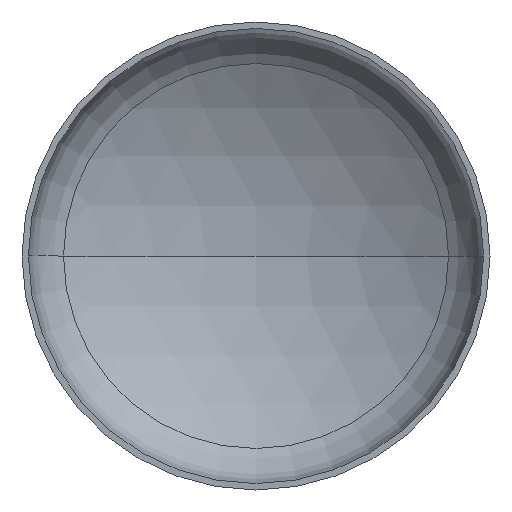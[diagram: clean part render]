
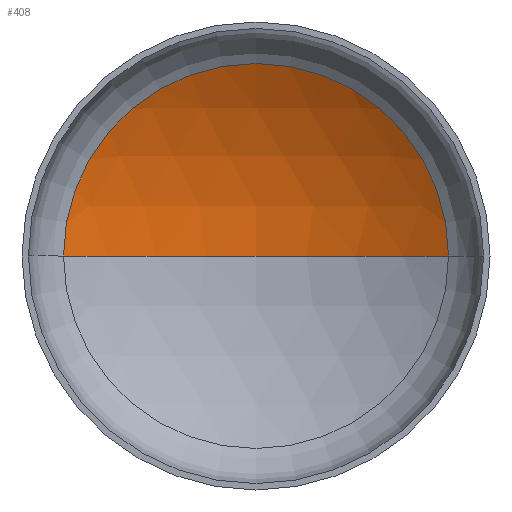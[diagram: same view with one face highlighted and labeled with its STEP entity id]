
A CAD part, front view. The second image highlights one B-rep face of the part: STEP entity #408.
In plain terms, the highlighted spherical face has radius 5600 mm.
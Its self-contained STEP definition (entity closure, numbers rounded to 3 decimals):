
#6 = ORIENTED_EDGE ( 'NONE', *, *, #131, .T. ) ;
#10 = VERTEX_POINT ( 'NONE', #268 ) ;
#11 = DIRECTION ( 'NONE',  ( 1., 0., 0. ) ) ;
#16 = VERTEX_POINT ( 'NONE', #65 ) ;
#28 = DIRECTION ( 'NONE',  ( 0., 0., 1. ) ) ;
#46 = ORIENTED_EDGE ( 'NONE', *, *, #134, .F. ) ;
#62 = VERTEX_POINT ( 'NONE', #234 ) ;
#65 = CARTESIAN_POINT ( 'NONE',  ( -2879.292, 1026.31, 0. ) ) ;
#69 = EDGE_LOOP ( 'NONE', ( #46, #6, #115 ) ) ;
#84 = AXIS2_PLACEMENT_3D ( 'NONE', #385, #28, #11 ) ;
#94 = AXIS2_PLACEMENT_3D ( 'NONE', #193, #194, #173 ) ;
#95 = AXIS2_PLACEMENT_3D ( 'NONE', #271, #207, #203 ) ;
#96 = DIRECTION ( 'NONE',  ( -1., 0., 0. ) ) ;
#109 = DIRECTION ( 'NONE',  ( 0., 0., -1. ) ) ;
#115 = ORIENTED_EDGE ( 'NONE', *, *, #130, .T. ) ;
#130 = EDGE_CURVE ( 'NONE', #10, #16, #280, .T. ) ;
#131 = EDGE_CURVE ( 'NONE', #62, #10, #215, .T. ) ;
#134 = EDGE_CURVE ( 'NONE', #62, #16, #335, .T. ) ;
#147 = FACE_OUTER_BOUND ( 'NONE', #69, .T. ) ;
#173 = DIRECTION ( 'NONE',  ( -1., 0., 0. ) ) ;
#182 = CARTESIAN_POINT ( 'NONE',  ( 0., -3776.78, 0. ) ) ;
#193 = CARTESIAN_POINT ( 'NONE',  ( 0., -3776.78, 0. ) ) ;
#194 = DIRECTION ( 'NONE',  ( 0., 0., -1. ) ) ;
#203 = DIRECTION ( 'NONE',  ( 1., 0., 0. ) ) ;
#207 = DIRECTION ( 'NONE',  ( 0., -1., 0. ) ) ;
#215 = CIRCLE ( 'NONE', #94, 5600. ) ;
#234 = CARTESIAN_POINT ( 'NONE',  ( 0., 1823.22, 0. ) ) ;
#268 = CARTESIAN_POINT ( 'NONE',  ( 2879.292, 1026.31, 0. ) ) ;
#271 = CARTESIAN_POINT ( 'NONE',  ( 0., 1026.31, 0. ) ) ;
#280 = CIRCLE ( 'NONE', #95, 2879.292 ) ;
#323 = AXIS2_PLACEMENT_3D ( 'NONE', #182, #109, #96 ) ;
#335 = CIRCLE ( 'NONE', #84, 5600. ) ;
#337 = SPHERICAL_SURFACE ( 'NONE', #323, 5600. ) ;
#385 = CARTESIAN_POINT ( 'NONE',  ( 0., -3776.78, 0. ) ) ;
#408 = ADVANCED_FACE ( 'NONE', ( #147 ), #337, .F. ) ;
